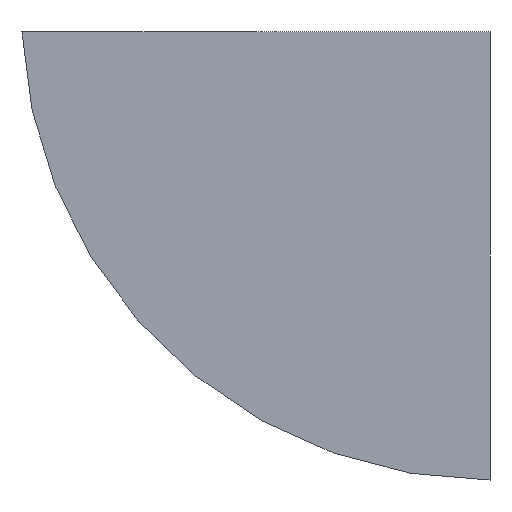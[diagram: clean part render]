
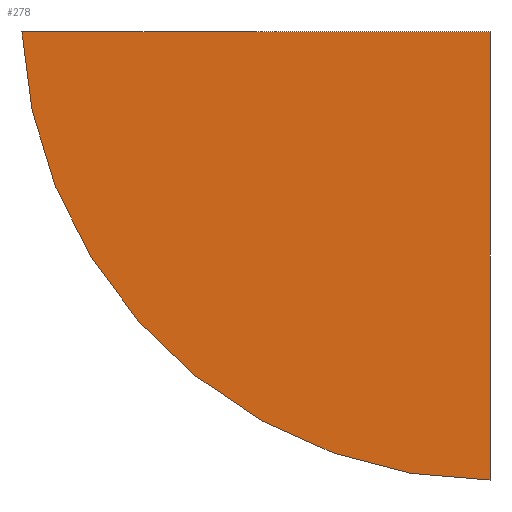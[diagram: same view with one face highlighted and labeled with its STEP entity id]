
A CAD part, front view. The second image highlights one B-rep face of the part: STEP entity #278.
In plain terms, the highlighted planar face has unit normal (0, -1, 0).
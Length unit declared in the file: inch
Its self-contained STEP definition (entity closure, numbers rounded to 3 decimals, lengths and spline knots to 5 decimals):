
#1=DIRECTION('',(-1.,0.,0.));
#2=VECTOR('',#1,1148.91253);
#3=CARTESIAN_POINT('',(0.,-1000.,950.));
#4=LINE('',#3,#2);
#5=DIRECTION('',(0.,0.,1.));
#6=VECTOR('',#5,1100.);
#7=CARTESIAN_POINT('',(0.,-1000.,-150.));
#8=LINE('',#7,#6);
#13=CARTESIAN_POINT('',(0.,-1000.,1000.));
#14=DIRECTION('',(0.,-1.,0.));
#15=DIRECTION('',(-0.999,0.,-0.043));
#16=AXIS2_PLACEMENT_3D('',#13,#14,#15);
#241=CARTESIAN_POINT('',(0.,-1000.,-150.));
#243=VERTEX_POINT('',#241);
#257=CARTESIAN_POINT('',(0.,-1000.,950.));
#258=CARTESIAN_POINT('',(-1148.91253,-1000.,950.));
#259=VERTEX_POINT('',#257);
#260=VERTEX_POINT('',#258);
#265=CARTESIAN_POINT('',(0.,-1000.,0.));
#266=DIRECTION('',(0.,1.,0.));
#267=DIRECTION('',(-1.,0.,0.));
#268=AXIS2_PLACEMENT_3D('',#265,#266,#267);
#269=PLANE('',#268);
#271=ORIENTED_EDGE('',*,*,#270,.F.);
#273=ORIENTED_EDGE('',*,*,#272,.F.);
#275=ORIENTED_EDGE('',*,*,#274,.F.);
#276=EDGE_LOOP('',(#271,#273,#275));
#277=FACE_OUTER_BOUND('',#276,.F.);
#278=ADVANCED_FACE('',(#277),#269,.F.);
#17=CIRCLE('',#16,1150.);
#270=EDGE_CURVE('',#259,#260,#4,.T.);
#272=EDGE_CURVE('',#243,#259,#8,.T.);
#274=EDGE_CURVE('',#260,#243,#17,.T.);
